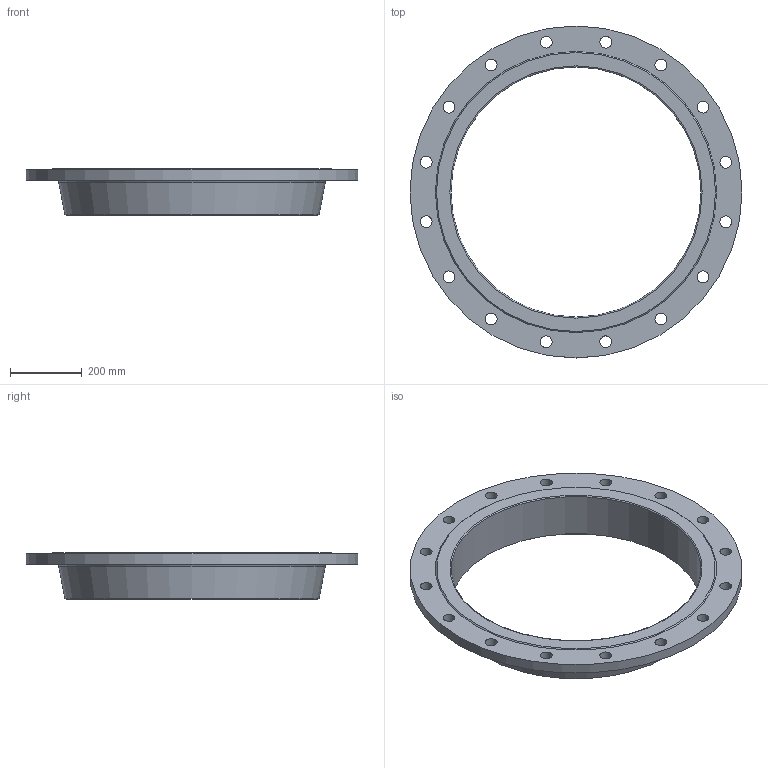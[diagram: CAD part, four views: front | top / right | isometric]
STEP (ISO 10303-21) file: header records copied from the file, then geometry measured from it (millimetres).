
FILE_DESCRIPTION(/* description */ (''),/* implementation_level */ '2;1');
FILE_NAME(/* name */ 'C:\Users\D\Documents\Inventor\HP\JIS\フランジ\水道用フランジF12\RF\ffws_rf_700_2.stp',/* time_stamp */ '2024-08-28T10:15:10+09:00',/* author */ ('D'),/* organization */ (''),/* preprocessor_version */ 'ST-DEVELOPER v18',/* originating_system */ 'Autodesk Inventor 2020',/* authorisation */ '');
FILE_SCHEMA (('AUTOMOTIVE_DESIGN { 1 0 10303 214 3 1 1 }'));
Length unit declared in the file: millimetre
Products named in the file (1): ffws_rf_80
Bounding box: 928 x 928 x 130 mm (x, y, z)
Volume: 11642918.7 mm3; surface area: 1154973.5 mm2
Topology: 1 solids, 1 shells, 27 faces, 90 edges, 67 vertices
Faces by surface type: cylinder 18, plane 4, cone 3, torus 2
Full cylindrical faces by diameter (mm): 33 x16, 699.2 x1, 928 x1
Entity records: 1170 total; most frequent: DIRECTION 215, CARTESIAN_POINT 185, ORIENTED_EDGE 180, AXIS2_PLACEMENT_3D 97, EDGE_CURVE 90, CIRCLE 69, VERTEX_POINT 67, EDGE_LOOP 63
